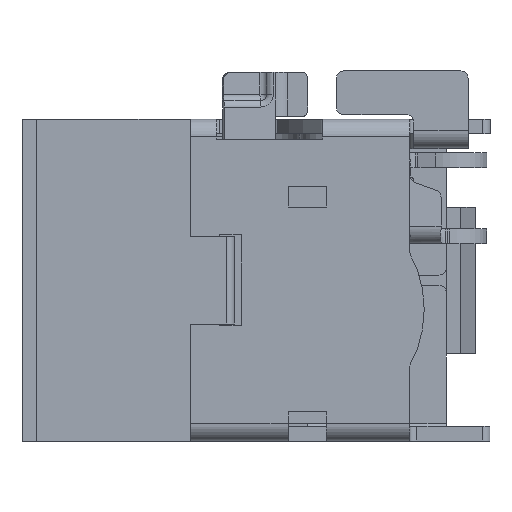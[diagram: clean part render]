
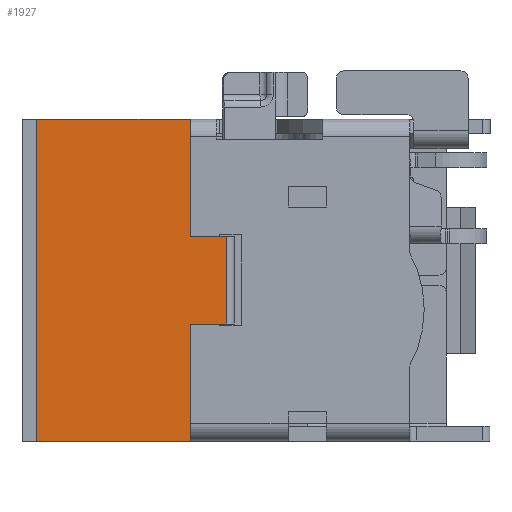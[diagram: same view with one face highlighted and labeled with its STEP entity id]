
A CAD part, left-side view. The second image highlights one B-rep face of the part: STEP entity #1927.
In plain terms, the highlighted planar face has unit normal (-1, 0, 0).
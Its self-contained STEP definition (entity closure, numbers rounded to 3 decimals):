
#303 = CARTESIAN_POINT ( 'NONE',  ( 0., 14., -10.5 ) ) ;
#604 = LINE ( 'NONE', #22766, #2813 ) ;
#1460 = VERTEX_POINT ( 'NONE', #13195 ) ;
#1927 = ADVANCED_FACE ( 'NONE', ( #12585 ), #19362, .F. ) ;
#1974 = EDGE_CURVE ( 'NONE', #6066, #7523, #5113, .T. ) ;
#2313 = VERTEX_POINT ( 'NONE', #4441 ) ;
#2460 = DIRECTION ( 'NONE',  ( 0., 0., 1. ) ) ;
#2467 = DIRECTION ( 'NONE',  ( 0., -1., 0. ) ) ;
#2492 = VECTOR ( 'NONE', #6373, 1000. ) ;
#2722 = VERTEX_POINT ( 'NONE', #10581 ) ;
#2813 = VECTOR ( 'NONE', #2460, 1000. ) ;
#3131 = DIRECTION ( 'NONE',  ( 0., 0., -1. ) ) ;
#3411 = CARTESIAN_POINT ( 'NONE',  ( 0., 22., 0. ) ) ;
#4441 = CARTESIAN_POINT ( 'NONE',  ( 0., 22., -10.5 ) ) ;
#4745 = VECTOR ( 'NONE', #2467, 1000. ) ;
#4832 = LINE ( 'NONE', #22880, #22977 ) ;
#5113 = LINE ( 'NONE', #17137, #4745 ) ;
#5141 = CARTESIAN_POINT ( 'NONE',  ( 0., 8., -13. ) ) ;
#5327 = EDGE_CURVE ( 'NONE', #6066, #21394, #10640, .T. ) ;
#5787 = CARTESIAN_POINT ( 'NONE',  ( 0., 8., -10.5 ) ) ;
#6066 = VERTEX_POINT ( 'NONE', #15363 ) ;
#6240 = DIRECTION ( 'NONE',  ( 1., 0., 0. ) ) ;
#6373 = DIRECTION ( 'NONE',  ( 0., 0., -1. ) ) ;
#6813 = DIRECTION ( 'NONE',  ( 0., -1., 0. ) ) ;
#7092 = CARTESIAN_POINT ( 'NONE',  ( 0., 8., -13. ) ) ;
#7523 = VERTEX_POINT ( 'NONE', #14889 ) ;
#7551 = LINE ( 'NONE', #3411, #13210 ) ;
#8547 = VECTOR ( 'NONE', #19842, 1000. ) ;
#8998 = LINE ( 'NONE', #303, #2492 ) ;
#9368 = ORIENTED_EDGE ( 'NONE', *, *, #13201, .T. ) ;
#9632 = VECTOR ( 'NONE', #3131, 1000. ) ;
#9911 = ORIENTED_EDGE ( 'NONE', *, *, #19877, .T. ) ;
#10007 = CARTESIAN_POINT ( 'NONE',  ( 0., 14., -13. ) ) ;
#10116 = DIRECTION ( 'NONE',  ( 0., 0., 1. ) ) ;
#10349 = CARTESIAN_POINT ( 'NONE',  ( 0., 22., -10.5 ) ) ;
#10581 = CARTESIAN_POINT ( 'NONE',  ( 0., 14., -10.5 ) ) ;
#10640 = LINE ( 'NONE', #5787, #9632 ) ;
#11838 = EDGE_CURVE ( 'NONE', #14364, #1460, #7551, .T. ) ;
#12585 = FACE_OUTER_BOUND ( 'NONE', #15812, .T. ) ;
#13148 = ORIENTED_EDGE ( 'NONE', *, *, #5327, .F. ) ;
#13195 = CARTESIAN_POINT ( 'NONE',  ( 0., 0., 0. ) ) ;
#13201 = EDGE_CURVE ( 'NONE', #21181, #21394, #16435, .T. ) ;
#13210 = VECTOR ( 'NONE', #6813, 1000. ) ;
#13796 = CARTESIAN_POINT ( 'NONE',  ( 0., 22., 0. ) ) ;
#14364 = VERTEX_POINT ( 'NONE', #13796 ) ;
#14889 = CARTESIAN_POINT ( 'NONE',  ( 0., 0., -10.5 ) ) ;
#15363 = CARTESIAN_POINT ( 'NONE',  ( 0., 8., -10.5 ) ) ;
#15812 = EDGE_LOOP ( 'NONE', ( #9911, #9368, #13148, #22510, #18429, #20323, #21111, #17314 ) ) ;
#16044 = DIRECTION ( 'NONE',  ( 0., -1., 0. ) ) ;
#16258 = EDGE_CURVE ( 'NONE', #7523, #1460, #4832, .T. ) ;
#16435 = LINE ( 'NONE', #5141, #18992 ) ;
#17137 = CARTESIAN_POINT ( 'NONE',  ( 0., 22., -10.5 ) ) ;
#17218 = LINE ( 'NONE', #20226, #8547 ) ;
#17314 = ORIENTED_EDGE ( 'NONE', *, *, #23305, .T. ) ;
#17448 = EDGE_CURVE ( 'NONE', #2313, #14364, #604, .T. ) ;
#18429 = ORIENTED_EDGE ( 'NONE', *, *, #16258, .T. ) ;
#18992 = VECTOR ( 'NONE', #16044, 1000. ) ;
#19362 = PLANE ( 'NONE',  #22596 ) ;
#19842 = DIRECTION ( 'NONE',  ( 0., -1., 0. ) ) ;
#19877 = EDGE_CURVE ( 'NONE', #2722, #21181, #8998, .T. ) ;
#20226 = CARTESIAN_POINT ( 'NONE',  ( 0., 22., -10.5 ) ) ;
#20323 = ORIENTED_EDGE ( 'NONE', *, *, #11838, .F. ) ;
#21111 = ORIENTED_EDGE ( 'NONE', *, *, #17448, .F. ) ;
#21181 = VERTEX_POINT ( 'NONE', #10007 ) ;
#21394 = VERTEX_POINT ( 'NONE', #7092 ) ;
#22385 = DIRECTION ( 'NONE',  ( 0., 0., -1. ) ) ;
#22510 = ORIENTED_EDGE ( 'NONE', *, *, #1974, .T. ) ;
#22596 = AXIS2_PLACEMENT_3D ( 'NONE', #10349, #6240, #22385 ) ;
#22766 = CARTESIAN_POINT ( 'NONE',  ( 0., 22., -10.5 ) ) ;
#22880 = CARTESIAN_POINT ( 'NONE',  ( 0., 0., -10.5 ) ) ;
#22977 = VECTOR ( 'NONE', #10116, 1000. ) ;
#23305 = EDGE_CURVE ( 'NONE', #2313, #2722, #17218, .T. ) ;
